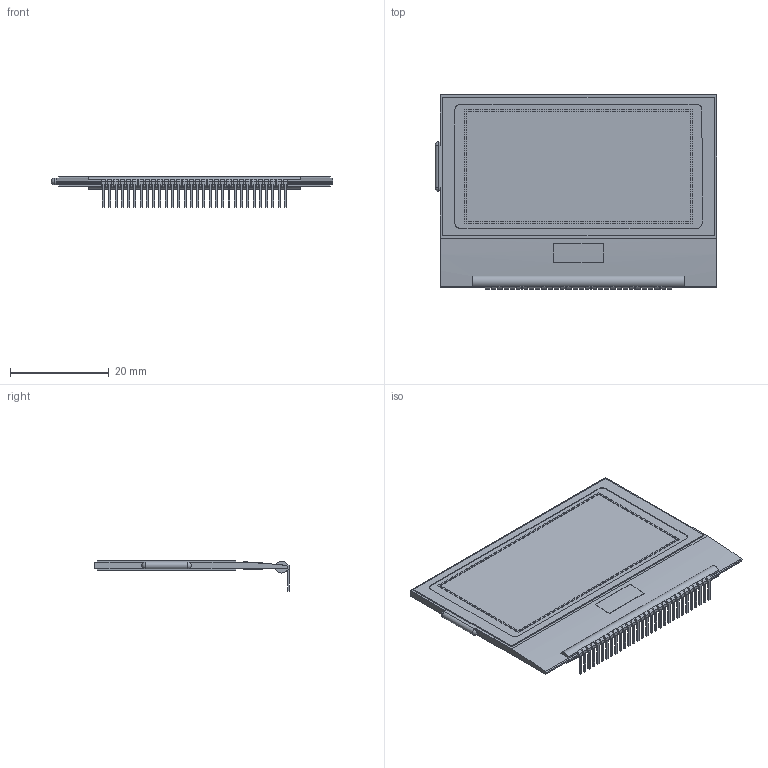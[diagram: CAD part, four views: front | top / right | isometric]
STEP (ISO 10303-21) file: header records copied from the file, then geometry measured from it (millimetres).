
FILE_DESCRIPTION (( 'STEP AP203' ), '1' );
FILE_NAME ('NHD-C12864FA-RN-FTW-3V_Rev1A.STEP', '2025-05-22T13:39:59', ( '' ), ( '' ), 'SwSTEP 2.0', 'SolidWorks 2019', '' );
FILE_SCHEMA (( 'CONFIG_CONTROL_DESIGN' ));
Length unit declared in the file: millimetre
Products named in the file (1): NHD-C12864FA-RN-FTW-3V_Rev1A
Bounding box: 57 x 39.3 x 6.14 mm (x, y, z)
Volume: 3772.4 mm3; surface area: 5107.8 mm2
Topology: 1 solids, 1 shells, 2397 faces, 6326 edges, 4196 vertices
Faces by surface type: plane 2235, cylinder 98, bspline 62, sphere 2
Entity records: 75727 total; most frequent: CARTESIAN_POINT 20464, ORIENTED_EDGE 12644, DIRECTION 9150, EDGE_CURVE 6322, VERTEX_POINT 4194, VECTOR 3958, LINE 3958, EDGE_LOOP 2784
